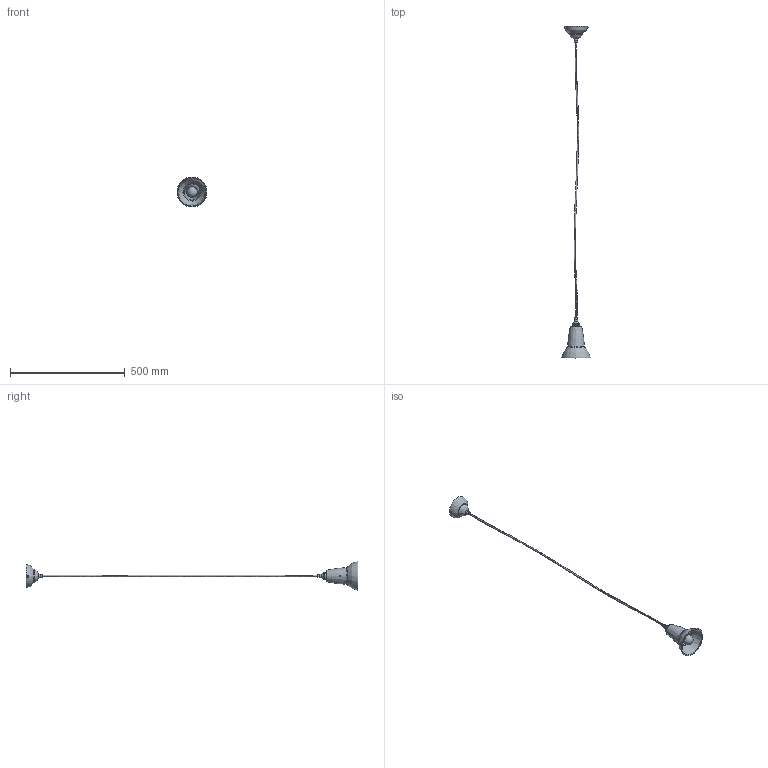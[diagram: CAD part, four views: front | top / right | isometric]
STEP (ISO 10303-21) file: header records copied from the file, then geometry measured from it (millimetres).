
FILE_DESCRIPTION(/* description */ (''),/* implementation_level */ '2;1');
FILE_NAME(/* name */ 'C:/Users/tfalope/Desktop/Original_1227_Mini_Pendant_STEP_01.step',/* time_stamp */ '2021-10-06T18:41:45+01:00',/* author */ (''),/* organization */ (''),/* preprocessor_version */ 'ST-DEVELOPER v18.1',/* originating_system */ 'Autodesk Translation Framework v10.10.0.1391',/* authorisation */ '');
FILE_SCHEMA (('AUTOMOTIVE_DESIGN { 1 0 10303 214 3 1 1 }'));
Length unit declared in the file: millimetre
Products named in the file (3): Original_1227_Pendant_STEP_01; 100031; 100053
Assembly tree (2 placements, depth 2):
  Original_1227_Pendant_STEP_01
    100031
    100053
Bounding box: 129.97 x 1446.25 x 129.97 mm (x, y, z)
Volume: 478149.3 mm3; surface area: 151594.4 mm2
Topology: 4 solids, 6 shells, 301 faces, 749 edges, 489 vertices
Faces by surface type: plane 139, cylinder 71, bspline 60, torus 15, cone 13, sphere 3
Full cylindrical faces by diameter (mm): 8 x2, 11.534 x5, 13.822 x5, 15 x2, 17 x1, 20.5 x1, 25 x1, 28.575 x1, 30 x2, 37.5 x1, 38.1 x1, 124.6 x1
Entity records: 15265 total; most frequent: CARTESIAN_POINT 8144, ORIENTED_EDGE 1490, DIRECTION 1396, EDGE_CURVE 745, AXIS2_PLACEMENT_3D 553, VERTEX_POINT 489, EDGE_LOOP 354, FACE_OUTER_BOUND 301
